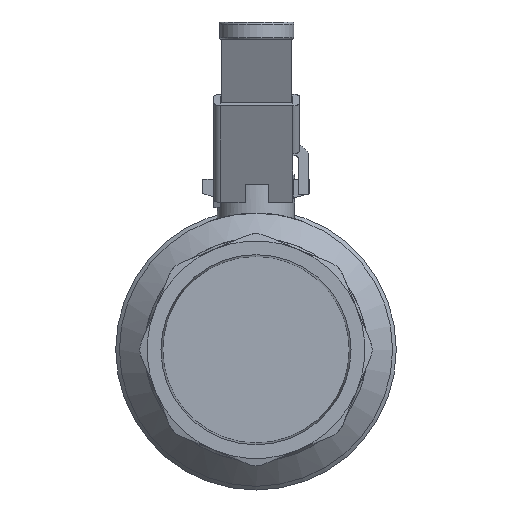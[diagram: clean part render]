
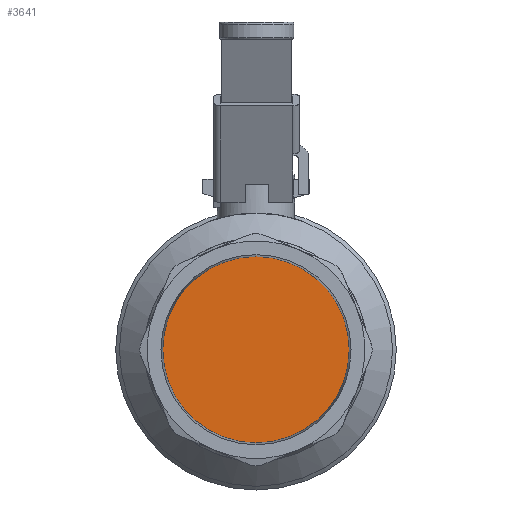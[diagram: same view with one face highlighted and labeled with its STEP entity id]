
A CAD part, left-side view. The second image highlights one B-rep face of the part: STEP entity #3641.
In plain terms, the highlighted free-form (B-spline) face has degree [1, 1] with [2, 2] control points.
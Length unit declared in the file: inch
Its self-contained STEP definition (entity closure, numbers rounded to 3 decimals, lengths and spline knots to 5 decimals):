
#3625=CARTESIAN_POINT('',(0.6969,1.12636,1.12636));
#3626=CARTESIAN_POINT('',(0.6969,-1.12636,1.12636));
#3627=CARTESIAN_POINT('',(0.6969,1.12636,-1.12636));
#3628=CARTESIAN_POINT('',(0.6969,-1.12636,-1.12636));
#3629=B_SPLINE_SURFACE_WITH_KNOTS('',1,1,((#3625,#3627),(#3626,#3628)),.UNSPECIFIED.,.F.,.F.,.U.,(2,2),(2,2),(0.0,2.25272),(0.0,2.25272),.UNSPECIFIED.);
#3630=CARTESIAN_POINT('',(0.6969,1.12636,0.0));
#3631=VERTEX_POINT('',#3630);
#3632=CARTESIAN_POINT('',(0.6969,0.0,0.0));
#3633=DIRECTION('',(1.0,0.0,0.0));
#3634=DIRECTION('',(0.0,1.0,0.0));
#3635=AXIS2_PLACEMENT_3D('',#3632,#3633,#3634);
#3636=CIRCLE('',#3635,1.12636);
#3637=EDGE_CURVE('',#3631,#3631,#3636,.T.);
#3638=ORIENTED_EDGE('',*,*,#3637,.F.);
#3639=EDGE_LOOP('',(#3638));
#3640=FACE_OUTER_BOUND('',#3639,.T.);
#3641=ADVANCED_FACE('',(#3640),#3629,.F.);
